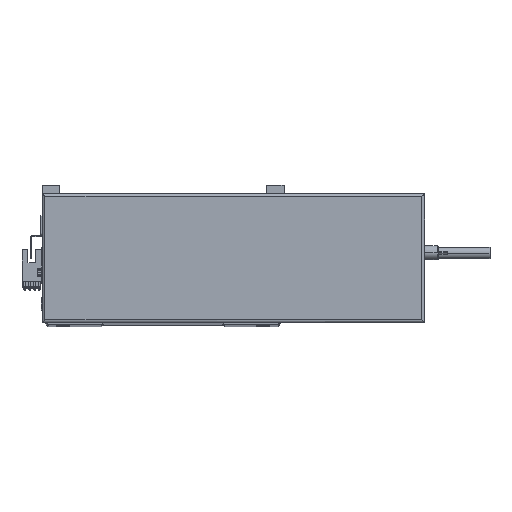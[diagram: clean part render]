
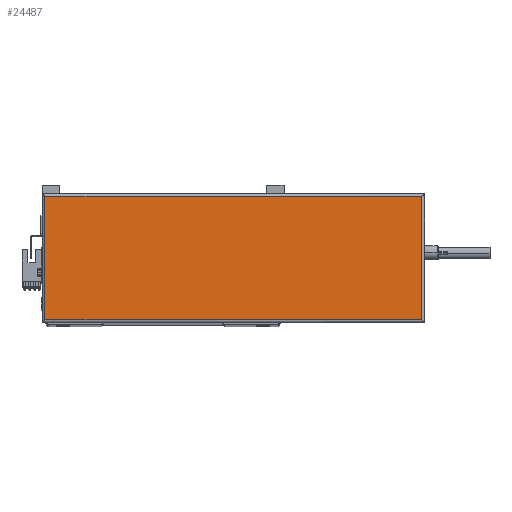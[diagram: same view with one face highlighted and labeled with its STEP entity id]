
A CAD part, top view. The second image highlights one B-rep face of the part: STEP entity #24487.
In plain terms, the highlighted planar face has unit normal (0, 0, 1).
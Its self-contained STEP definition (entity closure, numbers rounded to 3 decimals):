
#2074 = CARTESIAN_POINT ( 'NONE',  ( 2., 88., 44.8 ) ) ;
#4018 = EDGE_CURVE ( 'NONE', #30853, #50832, #20079, .T. ) ;
#7281 = CARTESIAN_POINT ( 'NONE',  ( 265., 2., 44.8 ) ) ;
#8166 = LINE ( 'NONE', #20516, #44404 ) ;
#8273 = EDGE_CURVE ( 'NONE', #33703, #30853, #20934, .T. ) ;
#8636 = DIRECTION ( 'NONE',  ( 0., -1., 0. ) ) ;
#9165 = VECTOR ( 'NONE', #18834, 1000. ) ;
#11600 = ORIENTED_EDGE ( 'NONE', *, *, #8273, .T. ) ;
#13173 = DIRECTION ( 'NONE',  ( 0., 0., 1. ) ) ;
#13402 = AXIS2_PLACEMENT_3D ( 'NONE', #25432, #13173, #41655 ) ;
#16814 = DIRECTION ( 'NONE',  ( 0., 1., 0. ) ) ;
#18834 = DIRECTION ( 'NONE',  ( -1., 0., 0. ) ) ;
#20079 = LINE ( 'NONE', #48920, #31364 ) ;
#20395 = ORIENTED_EDGE ( 'NONE', *, *, #37688, .T. ) ;
#20516 = CARTESIAN_POINT ( 'NONE',  ( 2., 0., 44.8 ) ) ;
#20934 = LINE ( 'NONE', #38734, #33443 ) ;
#21750 = ORIENTED_EDGE ( 'NONE', *, *, #4018, .T. ) ;
#24487 = ADVANCED_FACE ( 'NONE', ( #51406 ), #25256, .T. ) ;
#25256 = PLANE ( 'NONE',  #13402 ) ;
#25432 = CARTESIAN_POINT ( 'NONE',  ( 133.5, 45., 44.8 ) ) ;
#26272 = EDGE_CURVE ( 'NONE', #29067, #33703, #8166, .T. ) ;
#29067 = VERTEX_POINT ( 'NONE', #2074 ) ;
#30386 = LINE ( 'NONE', #50207, #9165 ) ;
#30853 = VERTEX_POINT ( 'NONE', #7281 ) ;
#31364 = VECTOR ( 'NONE', #16814, 1000. ) ;
#33443 = VECTOR ( 'NONE', #49880, 1000. ) ;
#33703 = VERTEX_POINT ( 'NONE', #45464 ) ;
#37688 = EDGE_CURVE ( 'NONE', #50832, #29067, #30386, .T. ) ;
#38368 = ORIENTED_EDGE ( 'NONE', *, *, #26272, .T. ) ;
#38734 = CARTESIAN_POINT ( 'NONE',  ( 267., 2., 44.8 ) ) ;
#41655 = DIRECTION ( 'NONE',  ( 1., 0., 0. ) ) ;
#44404 = VECTOR ( 'NONE', #8636, 1000. ) ;
#45464 = CARTESIAN_POINT ( 'NONE',  ( 2., 2., 44.8 ) ) ;
#47149 = EDGE_LOOP ( 'NONE', ( #21750, #20395, #38368, #11600 ) ) ;
#48775 = CARTESIAN_POINT ( 'NONE',  ( 265., 88., 44.8 ) ) ;
#48920 = CARTESIAN_POINT ( 'NONE',  ( 265., 90., 44.8 ) ) ;
#49880 = DIRECTION ( 'NONE',  ( 1., 0., 0. ) ) ;
#50207 = CARTESIAN_POINT ( 'NONE',  ( 0., 88., 44.8 ) ) ;
#50832 = VERTEX_POINT ( 'NONE', #48775 ) ;
#51406 = FACE_OUTER_BOUND ( 'NONE', #47149, .T. ) ;
